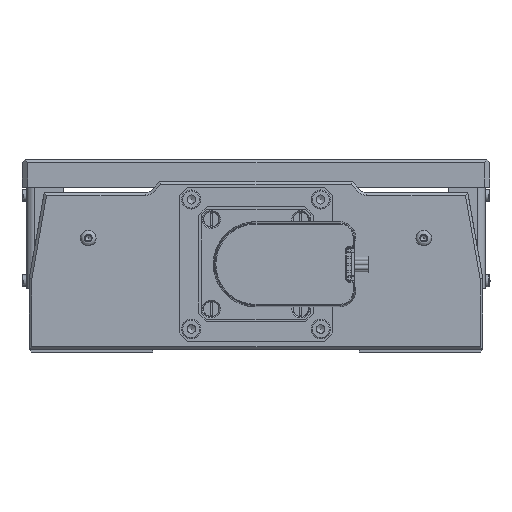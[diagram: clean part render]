
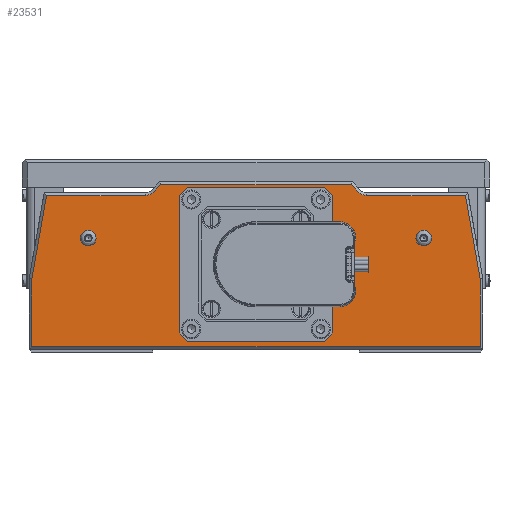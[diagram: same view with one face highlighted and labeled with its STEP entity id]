
A CAD part, front view. The second image highlights one B-rep face of the part: STEP entity #23531.
In plain terms, the highlighted planar face has unit normal (0, -1, 0).
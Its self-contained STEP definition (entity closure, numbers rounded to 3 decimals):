
#832=FACE_BOUND($,#3926,.T.);
#833=FACE_BOUND($,#3927,.T.);
#834=FACE_BOUND($,#3928,.T.);
#835=FACE_BOUND($,#3929,.T.);
#1568=CIRCLE($,#25068,2.85);
#1569=CIRCLE($,#25069,2.85);
#1570=CIRCLE($,#25070,4.);
#1571=CIRCLE($,#25071,4.);
#3926=EDGE_LOOP($,(#15700,#15701,#15702,#15703,#15704,#15705,#15706,#15707));
#3927=EDGE_LOOP($,(#15708));
#3928=EDGE_LOOP($,(#15709));
#3929=EDGE_LOOP($,(#15710,#15711,#15712,#15713,#15714,#15715,#15716,#15717,
#15718,#15719,#15720,#15721));
#6310=LINE($,#34838,#8138);
#6311=LINE($,#34840,#8139);
#6312=LINE($,#34842,#8140);
#6313=LINE($,#34844,#8141);
#6314=LINE($,#34846,#8142);
#6315=LINE($,#34848,#8143);
#6316=LINE($,#34850,#8144);
#6317=LINE($,#34851,#8145);
#6318=LINE($,#34858,#8146);
#6319=LINE($,#34860,#8147);
#6320=LINE($,#34862,#8148);
#6321=LINE($,#34864,#8149);
#6322=LINE($,#34866,#8150);
#6323=LINE($,#34868,#8151);
#6324=LINE($,#34870,#8152);
#6325=LINE($,#34874,#8153);
#6326=LINE($,#34876,#8154);
#6327=LINE($,#34878,#8155);
#8138=VECTOR($,#28075,4.243);
#8139=VECTOR($,#28076,50.);
#8140=VECTOR($,#28077,4.243);
#8141=VECTOR($,#28078,50.);
#8142=VECTOR($,#28079,4.243);
#8143=VECTOR($,#28080,50.);
#8144=VECTOR($,#28081,4.243);
#8145=VECTOR($,#28082,50.);
#8146=VECTOR($,#28087,35.918);
#8147=VECTOR($,#28088,30.747);
#8148=VECTOR($,#28089,24.72);
#8149=VECTOR($,#28090,163.);
#8150=VECTOR($,#28091,24.72);
#8151=VECTOR($,#28092,30.747);
#8152=VECTOR($,#28093,35.918);
#8153=VECTOR($,#28096,4.);
#8154=VECTOR($,#28097,69.172);
#8155=VECTOR($,#28098,4.);
#9982=VERTEX_POINT($,#34836);
#9983=VERTEX_POINT($,#34837);
#9984=VERTEX_POINT($,#34839);
#9985=VERTEX_POINT($,#34841);
#9986=VERTEX_POINT($,#34843);
#9987=VERTEX_POINT($,#34845);
#9988=VERTEX_POINT($,#34847);
#9989=VERTEX_POINT($,#34849);
#9990=VERTEX_POINT($,#34852);
#9991=VERTEX_POINT($,#34854);
#9992=VERTEX_POINT($,#34856);
#9993=VERTEX_POINT($,#34857);
#9994=VERTEX_POINT($,#34859);
#9995=VERTEX_POINT($,#34861);
#9996=VERTEX_POINT($,#34863);
#9997=VERTEX_POINT($,#34865);
#9998=VERTEX_POINT($,#34867);
#9999=VERTEX_POINT($,#34869);
#10000=VERTEX_POINT($,#34871);
#10001=VERTEX_POINT($,#34873);
#10002=VERTEX_POINT($,#34875);
#10003=VERTEX_POINT($,#34877);
#12296=EDGE_CURVE($,#9982,#9983,#6310,.T.);
#12297=EDGE_CURVE($,#9983,#9984,#6311,.T.);
#12298=EDGE_CURVE($,#9984,#9985,#6312,.T.);
#12299=EDGE_CURVE($,#9985,#9986,#6313,.T.);
#12300=EDGE_CURVE($,#9986,#9987,#6314,.T.);
#12301=EDGE_CURVE($,#9987,#9988,#6315,.T.);
#12302=EDGE_CURVE($,#9988,#9989,#6316,.T.);
#12303=EDGE_CURVE($,#9989,#9982,#6317,.T.);
#12304=EDGE_CURVE($,#9990,#9990,#1568,.T.);
#12305=EDGE_CURVE($,#9991,#9991,#1569,.T.);
#12306=EDGE_CURVE($,#9992,#9993,#6318,.T.);
#12307=EDGE_CURVE($,#9994,#9992,#6319,.T.);
#12308=EDGE_CURVE($,#9995,#9994,#6320,.T.);
#12309=EDGE_CURVE($,#9996,#9995,#6321,.T.);
#12310=EDGE_CURVE($,#9997,#9996,#6322,.T.);
#12311=EDGE_CURVE($,#9998,#9997,#6323,.T.);
#12312=EDGE_CURVE($,#9999,#9998,#6324,.T.);
#12313=EDGE_CURVE($,#10000,#9999,#1570,.T.);
#12314=EDGE_CURVE($,#10001,#10000,#6325,.T.);
#12315=EDGE_CURVE($,#10002,#10001,#6326,.T.);
#12316=EDGE_CURVE($,#10003,#10002,#6327,.T.);
#12317=EDGE_CURVE($,#9993,#10003,#1571,.T.);
#15700=ORIENTED_EDGE($,*,*,#12296,.T.);
#15701=ORIENTED_EDGE($,*,*,#12297,.T.);
#15702=ORIENTED_EDGE($,*,*,#12298,.T.);
#15703=ORIENTED_EDGE($,*,*,#12299,.T.);
#15704=ORIENTED_EDGE($,*,*,#12300,.T.);
#15705=ORIENTED_EDGE($,*,*,#12301,.T.);
#15706=ORIENTED_EDGE($,*,*,#12302,.T.);
#15707=ORIENTED_EDGE($,*,*,#12303,.T.);
#15708=ORIENTED_EDGE($,*,*,#12304,.T.);
#15709=ORIENTED_EDGE($,*,*,#12305,.T.);
#15710=ORIENTED_EDGE($,*,*,#12306,.F.);
#15711=ORIENTED_EDGE($,*,*,#12307,.F.);
#15712=ORIENTED_EDGE($,*,*,#12308,.F.);
#15713=ORIENTED_EDGE($,*,*,#12309,.F.);
#15714=ORIENTED_EDGE($,*,*,#12310,.F.);
#15715=ORIENTED_EDGE($,*,*,#12311,.F.);
#15716=ORIENTED_EDGE($,*,*,#12312,.F.);
#15717=ORIENTED_EDGE($,*,*,#12313,.F.);
#15718=ORIENTED_EDGE($,*,*,#12314,.F.);
#15719=ORIENTED_EDGE($,*,*,#12315,.F.);
#15720=ORIENTED_EDGE($,*,*,#12316,.F.);
#15721=ORIENTED_EDGE($,*,*,#12317,.F.);
#21240=PLANE($,#25067);
#23531=ADVANCED_FACE($,(#832,#833,#834,#835),#21240,.F.);
#25067=AXIS2_PLACEMENT_3D($,#34835,#28073,#28074);
#25068=AXIS2_PLACEMENT_3D($,#34853,#28083,#28084);
#25069=AXIS2_PLACEMENT_3D($,#34855,#28085,#28086);
#25070=AXIS2_PLACEMENT_3D($,#34872,#28094,#28095);
#25071=AXIS2_PLACEMENT_3D($,#34879,#28099,#28100);
#28073=DIRECTION('center_axis',(0.,1.,0.));
#28074=DIRECTION('ref_axis',(0.,0.,-1.));
#28075=DIRECTION($,(0.707,0.,0.707));
#28076=DIRECTION($,(1.,0.,0.));
#28077=DIRECTION($,(0.707,0.,-0.707));
#28078=DIRECTION($,(0.,0.,-1.));
#28079=DIRECTION($,(-0.707,0.,-0.707));
#28080=DIRECTION($,(-1.,0.,0.));
#28081=DIRECTION($,(-0.707,0.,0.707));
#28082=DIRECTION($,(0.,0.,1.));
#28083=DIRECTION('center_axis',(0.,1.,0.));
#28084=DIRECTION('ref_axis',(-1.,0.,0.));
#28085=DIRECTION('center_axis',(0.,1.,0.));
#28086=DIRECTION('ref_axis',(-1.,0.,0.));
#28087=DIRECTION($,(1.,0.,0.));
#28088=DIRECTION($,(0.174,0.,0.985));
#28089=DIRECTION($,(0.,0.,1.));
#28090=DIRECTION($,(-1.,0.,0.));
#28091=DIRECTION($,(0.,0.,-1.));
#28092=DIRECTION($,(0.174,0.,-0.985));
#28093=DIRECTION($,(1.,0.,0.));
#28094=DIRECTION('center_axis',(0.,-1.,0.));
#28095=DIRECTION('ref_axis',(-0.383,0.,-0.924));
#28096=DIRECTION($,(0.707,0.,-0.707));
#28097=DIRECTION($,(1.,0.,0.));
#28098=DIRECTION($,(0.707,0.,0.707));
#28099=DIRECTION('center_axis',(0.,-1.,0.));
#28100=DIRECTION('ref_axis',(0.383,0.,-0.924));
#34835=CARTESIAN_POINT('Origin',(65.5,-420.,41.5));
#34836=CARTESIAN_POINT('',(-28.,-420.,57.));
#34837=CARTESIAN_POINT('',(-25.,-420.,60.));
#34838=CARTESIAN_POINT($,(-7.,-420.,78.));
#34839=CARTESIAN_POINT('',(25.,-420.,60.));
#34840=CARTESIAN_POINT($,(45.25,-420.,60.));
#34841=CARTESIAN_POINT('',(28.,-420.,57.));
#34842=CARTESIAN_POINT($,(41.25,-420.,43.75));
#34843=CARTESIAN_POINT('',(28.,-420.,7.));
#34844=CARTESIAN_POINT($,(28.,-420.,24.25));
#34845=CARTESIAN_POINT('',(25.,-420.,4.));
#34846=CARTESIAN_POINT($,(44.5,-420.,23.5));
#34847=CARTESIAN_POINT('',(-25.,-420.,4.));
#34848=CARTESIAN_POINT($,(20.25,-420.,4.));
#34849=CARTESIAN_POINT('',(-28.,-420.,7.));
#34850=CARTESIAN_POINT($,(-13.25,-420.,-7.75));
#34851=CARTESIAN_POINT($,(-28.,-420.,49.25));
#34852=CARTESIAN_POINT('',(58.15,-420.,41.5));
#34853=CARTESIAN_POINT('Origin',(61.,-420.,41.5));
#34854=CARTESIAN_POINT('',(-63.85,-420.,41.5));
#34855=CARTESIAN_POINT('Origin',(-61.,-420.,41.5));
#34856=CARTESIAN_POINT('',(-76.161,-420.,57.));
#34857=CARTESIAN_POINT('',(-40.243,-420.,57.));
#34858=CARTESIAN_POINT($,(-19.5,-420.,57.));
#34859=CARTESIAN_POINT('',(-81.5,-420.,26.72));
#34860=CARTESIAN_POINT($,(-77.272,-420.,50.696));
#34861=CARTESIAN_POINT('',(-81.5,-420.,2.));
#34862=CARTESIAN_POINT($,(-81.5,-420.,28.264));
#34863=CARTESIAN_POINT('',(81.5,-420.,2.));
#34864=CARTESIAN_POINT($,(-41.25,-420.,2.));
#34865=CARTESIAN_POINT('',(81.5,-420.,26.72));
#34866=CARTESIAN_POINT($,(81.5,-420.,15.36));
#34867=CARTESIAN_POINT('',(76.161,-420.,57.));
#34868=CARTESIAN_POINT($,(80.022,-420.,35.1));
#34869=CARTESIAN_POINT('',(40.243,-420.,57.));
#34870=CARTESIAN_POINT($,(38.5,-420.,57.));
#34871=CARTESIAN_POINT('',(37.414,-420.,58.172));
#34872=CARTESIAN_POINT('Origin',(40.243,-420.,61.));
#34873=CARTESIAN_POINT('',(34.586,-420.,61.));
#34874=CARTESIAN_POINT($,(35.613,-420.,59.973));
#34875=CARTESIAN_POINT('',(-34.586,-420.,61.));
#34876=CARTESIAN_POINT($,(17.5,-420.,61.));
#34877=CARTESIAN_POINT('',(-37.414,-420.,58.172));
#34878=CARTESIAN_POINT($,(-33.613,-420.,61.973));
#34879=CARTESIAN_POINT('Origin',(-40.243,-420.,61.));
